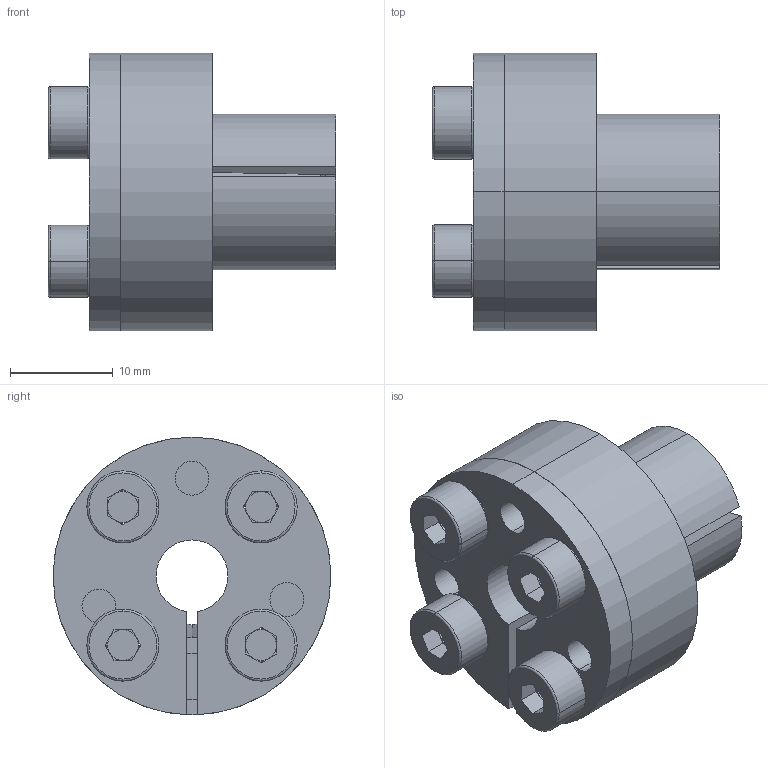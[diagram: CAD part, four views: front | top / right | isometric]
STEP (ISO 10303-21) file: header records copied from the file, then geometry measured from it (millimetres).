
FILE_DESCRIPTION (( 'STEP AP203' ), '1' );
FILE_NAME ('T-07-15.STEP', '2017-11-06T04:48:29', ( 'MYCOM' ), ( '' ), 'SwSTEP 2.0', 'SolidWorks 2015', '' );
FILE_SCHEMA (( 'CONFIG_CONTROL_DESIGN' ));
Length unit declared in the file: millimetre
Products named in the file (1): T-07-15
Bounding box: 27.98 x 27 x 27 mm (x, y, z)
Surface area: 6550.5 mm2 (no closed solid volume)
Topology: 0 solids, 11 shells, 125 faces, 339 edges, 218 vertices
Faces by surface type: plane 59, cylinder 47, torus 16, cone 3
Entity records: 4047 total; most frequent: DIRECTION 758, CARTESIAN_POINT 701, ORIENTED_EDGE 592, EDGE_CURVE 339, AXIS2_PLACEMENT_3D 297, VERTEX_POINT 218, CIRCLE 171, LINE 164
